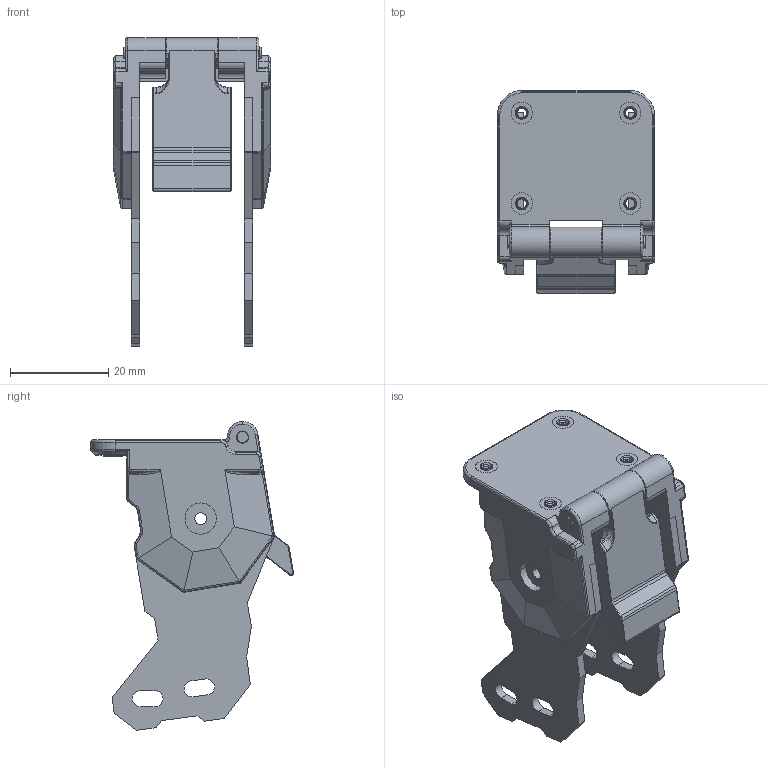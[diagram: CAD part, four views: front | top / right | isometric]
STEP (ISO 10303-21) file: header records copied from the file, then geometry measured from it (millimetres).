
FILE_DESCRIPTION (( 'STEP AP214' ), '1' );
FILE_NAME ('leg-pivot.STEP', '2025-11-13T21:37:33', ( '' ), ( '' ), 'SwSTEP 2.0', 'SolidWorks 2021', '' );
FILE_SCHEMA (( 'AUTOMOTIVE_DESIGN' ));
Length unit declared in the file: millimetre
Products named in the file (1): leg-pivot
Bounding box: 32 x 41.35 x 62.85 mm (x, y, z)
Volume: 13898.8 mm3; surface area: 13178.1 mm2
Topology: 9 solids, 9 shells, 1729 faces, 4866 edges, 3168 vertices
Faces by surface type: cylinder 806, bspline 630, plane 190, torus 57, cone 42, sphere 4
Entity records: 86964 total; most frequent: CARTESIAN_POINT 28746, ORIENTED_EDGE 9712, DIRECTION 6887, EDGE_CURVE 4856, VERTEX_POINT 3166, AXIS2_PLACEMENT_3D 2521, LINE 1845, VECTOR 1845
